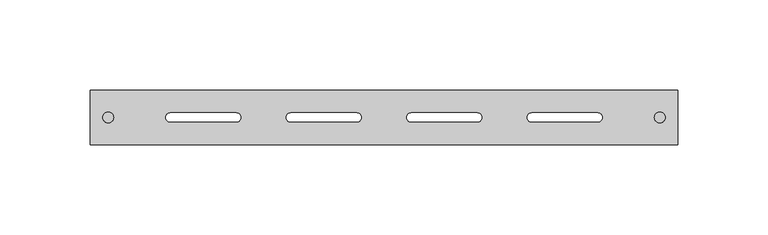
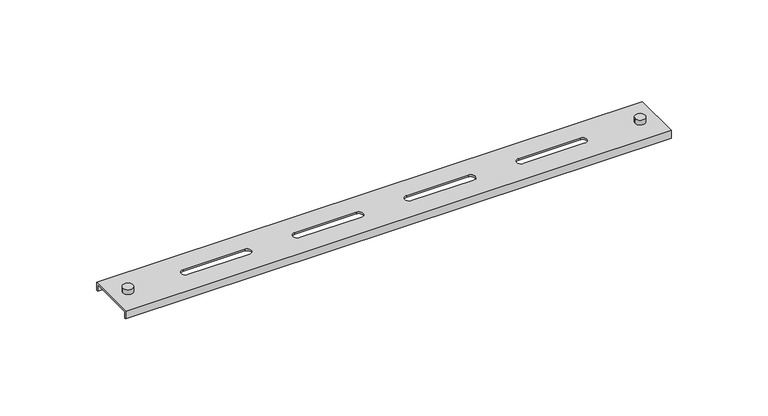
"""IFC4 building model written with IfcOpenShell, lengths in millimetres: cable carrier fitting geometry, CCT_Hyperline_FBTR_BAR_Подвес_для_оптического_лотка : Подвес для оптического лотка."""

from ifc_helpers import new_model, si_unit, point, frame, frame_2d, origin, place, context, project, spatial, polyline, circle_curve, trimmed, segment, composite_curve, outline, extrude, source, transform, mapped, element, save
from ifc_brep_helpers import plane_surface, revolved_surface, advanced_brep


def cable_carrier_fitting_5769e5f2(model_context):
    return source(origin(), model_context, "Body", "SolidModel", [
        extrude(outline(composite_curve([segment(trimmed(circle_curve(frame_2d((-152.6286976, 0.0)), 3.0), [point((-149.6286976, 0.0))], [point((-155.6286976, 0.0))], False, "CARTESIAN"), True, "CONTINUOUS"), segment(trimmed(circle_curve(frame_2d((-152.6286976, 0.0)), 3.0), [point((-155.6286976, 0.0))], [point((-149.6286976, 0.0))], False, "CARTESIAN"), True, "CONTINUOUS")], self_intersect=False)), frame((0.0, 0.0, 600.0), z_axis=(0.0, 0.0, 1.0), x_axis=(1.0, 0.0, 0.0)), (0.0, 0.0, 1.0), 3.0),
        extrude(outline(composite_curve([segment(trimmed(circle_curve(frame_2d((152.6286976, 0.0)), 3.0), [point((149.6286976, 0.0))], [point((155.6286976, 0.0))], False, "CARTESIAN"), True, "CONTINUOUS"), segment(trimmed(circle_curve(frame_2d((152.6286976, 0.0)), 3.0), [point((155.6286976, 0.0))], [point((149.6286976, 0.0))], False, "CARTESIAN"), True, "CONTINUOUS")], self_intersect=False)), frame((0.0, 0.0, 600.0), z_axis=(0.0, 0.0, 1.0), x_axis=(1.0, 0.0, 0.0)), (0.0, 0.0, 1.0), 3.0),
        advanced_brep(
        [(-162.5, -15.0, 600.0), (-162.5, 15.0, 600.0), (-162.5, 15.0, 595.0), (-162.5, 14.0, 595.0), (-162.5, 14.0, 599.0), (-162.5, -14.0, 599.0), (-162.5, -14.0, 595.0), (-162.5, -15.0, 595.0), (162.5, -15.0, 600.0), (162.5, 15.0, 600.0), (-51.6666667, 2.5, 600.0), (-15.0, 2.5, 600.0), (-15.0, -2.5, 600.0), (-51.6666667, -2.5, 600.0), (15.0, 2.5, 600.0), (51.6666667, 2.5, 600.0), (51.6666667, -2.5, 600.0), (15.0, -2.5, 600.0), (81.6666667, 2.5, 600.0), (118.3333333, 2.5, 600.0), (118.3333333, -2.5, 600.0), (81.6666667, -2.5, 600.0), (-118.3333333, 2.5, 600.0), (-81.6666667, 2.5, 600.0), (-81.6666667, -2.5, 600.0), (-118.3333333, -2.5, 600.0), (162.5, 14.0, 599.0), (162.5, -14.0, 599.0), (-15.0, 2.5, 599.0), (-51.6666667, 2.5, 599.0), (-51.6666667, -2.5, 599.0), (-15.0, -2.5, 599.0), (51.6666667, 2.5, 599.0), (15.0, 2.5, 599.0), (15.0, -2.5, 599.0), (51.6666667, -2.5, 599.0), (118.3333333, 2.5, 599.0), (81.6666667, 2.5, 599.0), (81.6666667, -2.5, 599.0), (118.3333333, -2.5, 599.0), (-81.6666667, 2.5, 599.0), (-118.3333333, 2.5, 599.0), (-118.3333333, -2.5, 599.0), (-81.6666667, -2.5, 599.0), (162.5, -14.0, 595.0), (162.5, -15.0, 595.0), (162.5, 14.0, 595.0), (162.5, 15.0, 595.0)],
        [
            (0, 1),
            (1, 2),
            (2, 3),
            (3, 4),
            (4, 5),
            (5, 6),
            (6, 7),
            (7, 0),
            (0, 8),
            (8, 9),
            (9, 1),
            (10, 11),
            (11, 12, circle_curve(frame((-15.0, 0.0, 600.0), z_axis=(0.0, 0.0, -1.0), x_axis=(1.0, 0.0, 0.0)), 2.5)),
            (12, 13),
            (13, 10, circle_curve(frame((-51.6666667, 0.0, 600.0), z_axis=(0.0, 0.0, -1.0), x_axis=(1.0, 0.0, 0.0)), 2.5)),
            (14, 15),
            (15, 16, circle_curve(frame((51.6666667, 0.0, 600.0), z_axis=(0.0, 0.0, -1.0), x_axis=(1.0, 0.0, 0.0)), 2.5)),
            (16, 17),
            (17, 14, circle_curve(frame((15.0, 0.0, 600.0), z_axis=(0.0, 0.0, -1.0), x_axis=(1.0, 0.0, 0.0)), 2.5)),
            (18, 19),
            (19, 20, circle_curve(frame((118.3333333, 0.0, 600.0), z_axis=(0.0, 0.0, -1.0), x_axis=(1.0, 0.0, 0.0)), 2.5)),
            (20, 21),
            (21, 18, circle_curve(frame((81.6666667, 0.0, 600.0), z_axis=(0.0, 0.0, -1.0), x_axis=(1.0, 0.0, 0.0)), 2.5)),
            (22, 23),
            (23, 24, circle_curve(frame((-81.6666667, 0.0, 600.0), z_axis=(0.0, 0.0, -1.0), x_axis=(1.0, 0.0, 0.0)), 2.5)),
            (24, 25),
            (25, 22, circle_curve(frame((-118.3333333, 0.0, 600.0), z_axis=(0.0, 0.0, -1.0), x_axis=(1.0, 0.0, 0.0)), 2.5)),
            (4, 26),
            (26, 27),
            (27, 5),
            (28, 29),
            (29, 30, circle_curve(frame((-51.6666667, 0.0, 599.0), z_axis=(0.0, 0.0, 1.0), x_axis=(1.0, 0.0, 0.0)), 2.5)),
            (30, 31),
            (31, 28, circle_curve(frame((-15.0, 0.0, 599.0), z_axis=(0.0, 0.0, 1.0), x_axis=(1.0, 0.0, 0.0)), 2.5)),
            (32, 33),
            (33, 34, circle_curve(frame((15.0, 0.0, 599.0), z_axis=(0.0, 0.0, 1.0), x_axis=(1.0, 0.0, 0.0)), 2.5)),
            (34, 35),
            (35, 32, circle_curve(frame((51.6666667, 0.0, 599.0), z_axis=(0.0, 0.0, 1.0), x_axis=(1.0, 0.0, 0.0)), 2.5)),
            (36, 37),
            (37, 38, circle_curve(frame((81.6666667, 0.0, 599.0), z_axis=(0.0, 0.0, 1.0), x_axis=(1.0, 0.0, 0.0)), 2.5)),
            (38, 39),
            (39, 36, circle_curve(frame((118.3333333, 0.0, 599.0), z_axis=(0.0, 0.0, 1.0), x_axis=(1.0, 0.0, 0.0)), 2.5)),
            (40, 41),
            (41, 42, circle_curve(frame((-118.3333333, 0.0, 599.0), z_axis=(0.0, 0.0, 1.0), x_axis=(1.0, 0.0, 0.0)), 2.5)),
            (42, 43),
            (43, 40, circle_curve(frame((-81.6666667, 0.0, 599.0), z_axis=(0.0, 0.0, 1.0), x_axis=(1.0, 0.0, 0.0)), 2.5)),
            (27, 44),
            (44, 6),
            (44, 45),
            (45, 7),
            (45, 8),
            (26, 46),
            (46, 47),
            (47, 9),
            (47, 2),
            (46, 3),
            (10, 29),
            (28, 11),
            (13, 30),
            (12, 31),
            (14, 33),
            (32, 15),
            (17, 34),
            (16, 35),
            (18, 37),
            (36, 19),
            (21, 38),
            (20, 39),
            (22, 41),
            (40, 23),
            (25, 42),
            (24, 43),
        ],
        [
            plane_surface(frame((-162.5, -60.0, 524.0), z_axis=(-1.0, 0.0, 0.0), x_axis=(0.0, 0.0, 1.0))),
            plane_surface(frame((-162.5, -15.0, 600.0), z_axis=(0.0, 0.0, 1.0), x_axis=(1.0, 0.0, 0.0))),
            plane_surface(frame((-162.5, 14.0, 599.0), z_axis=(0.0, 0.0, -1.0), x_axis=(1.0, 0.0, 0.0))),
            plane_surface(frame((-162.5, -14.0, 599.0), z_axis=(0.0, 1.0, 0.0), x_axis=(1.0, 0.0, 0.0))),
            plane_surface(frame((-162.5, -14.0, 595.0), z_axis=(0.0, 0.0, -1.0), x_axis=(1.0, 0.0, 0.0))),
            plane_surface(frame((-162.5, -15.0, 595.0), z_axis=(0.0, -1.0, 0.0), x_axis=(1.0, 0.0, 0.0))),
            plane_surface(frame((162.5, -60.0, 524.0), z_axis=(1.0, 0.0, 0.0), x_axis=(0.0, 0.0, 1.0))),
            plane_surface(frame((-162.5, 15.0, 600.0), z_axis=(0.0, 1.0, 0.0), x_axis=(1.0, 0.0, 0.0))),
            plane_surface(frame((-162.5, 15.0, 595.0), z_axis=(0.0, 0.0, -1.0), x_axis=(1.0, 0.0, 0.0))),
            plane_surface(frame((-162.5, 14.0, 595.0), z_axis=(0.0, -1.0, 0.0), x_axis=(1.0, 0.0, 0.0))),
            plane_surface(frame((-15.0, 2.5, 600.0), z_axis=(0.0, -1.0, 0.0), x_axis=(0.0, 0.0, -1.0))),
            revolved_surface(polyline([(-49.1666667, 0.0, 600.0), (-49.1666667, 0.0, 599.0)]), (-51.6666667, 0.0, 599.0), (0.0, 0.0, 1.0)),
            plane_surface(frame((-51.6666667, -2.5, 600.0), z_axis=(0.0, 1.0, 0.0), x_axis=(0.0, 0.0, -1.0))),
            revolved_surface(polyline([(-12.5, 0.0, 600.0), (-12.5, 0.0, 599.0)]), (-15.0, 0.0, 599.0), (0.0, 0.0, 1.0)),
            plane_surface(frame((51.6666667, 2.5, 600.0), z_axis=(0.0, -1.0, 0.0), x_axis=(0.0, 0.0, -1.0))),
            revolved_surface(polyline([(17.5, 0.0, 600.0), (17.5, 0.0, 599.0)]), (15.0, 0.0, 599.0), (0.0, 0.0, 1.0)),
            plane_surface(frame((15.0, -2.5, 600.0), z_axis=(0.0, 1.0, 0.0), x_axis=(0.0, 0.0, -1.0))),
            revolved_surface(polyline([(54.1666667, 0.0, 600.0), (54.1666667, 0.0, 599.0)]), (51.6666667, 0.0, 599.0), (0.0, 0.0, 1.0)),
            plane_surface(frame((118.3333333, 2.5, 600.0), z_axis=(0.0, -1.0, 0.0), x_axis=(0.0, 0.0, -1.0))),
            revolved_surface(polyline([(84.1666667, 0.0, 600.0), (84.1666667, 0.0, 599.0)]), (81.6666667, 0.0, 599.0), (0.0, 0.0, 1.0)),
            plane_surface(frame((81.6666667, -2.5, 600.0), z_axis=(0.0, 1.0, 0.0), x_axis=(0.0, 0.0, -1.0))),
            revolved_surface(polyline([(120.8333333, 0.0, 600.0), (120.8333333, 0.0, 599.0)]), (118.3333333, 0.0, 599.0), (0.0, 0.0, 1.0)),
            plane_surface(frame((-81.6666667, 2.5, 600.0), z_axis=(0.0, -1.0, 0.0), x_axis=(0.0, 0.0, -1.0))),
            revolved_surface(polyline([(-115.8333333, 0.0, 600.0), (-115.8333333, 0.0, 599.0)]), (-118.3333333, 0.0, 599.0), (0.0, 0.0, 1.0)),
            plane_surface(frame((-118.3333333, -2.5, 600.0), z_axis=(0.0, 1.0, 0.0), x_axis=(0.0, 0.0, -1.0))),
            revolved_surface(polyline([(-79.1666667, 0.0, 600.0), (-79.1666667, 0.0, 599.0)]), (-81.6666667, 0.0, 599.0), (0.0, 0.0, 1.0)),
        ],
        [
            (0, [[1, 2, 3, 4, 5, 6, 7, 8]]),
            (1, [[-1, 9, 10, 11], [12, 13, 14, 15], [16, 17, 18, 19], [20, 21, 22, 23], [24, 25, 26, 27]]),
            (2, [[-5, 28, 29, 30], [31, 32, 33, 34], [35, 36, 37, 38], [39, 40, 41, 42], [43, 44, 45, 46]]),
            (3, [[-6, -30, 47, 48]]),
            (4, [[-7, -48, 49, 50]]),
            (5, [[-8, -50, 51, -9]]),
            (6, [[-10, -51, -49, -47, -29, 52, 53, 54]]),
            (7, [[-2, -11, -54, 55]]),
            (8, [[-3, -55, -53, 56]]),
            (9, [[-4, -56, -52, -28]]),
            (10, [[57, -31, 58, -12]]),
            (11, [[-57, -15, 59, -32]]),
            (12, [[-59, -14, 60, -33]]),
            (13, [[-58, -34, -60, -13]]),
            (14, [[61, -35, 62, -16]]),
            (15, [[-61, -19, 63, -36]]),
            (16, [[-63, -18, 64, -37]]),
            (17, [[-62, -38, -64, -17]]),
            (18, [[65, -39, 66, -20]]),
            (19, [[-65, -23, 67, -40]]),
            (20, [[-67, -22, 68, -41]]),
            (21, [[-66, -42, -68, -21]]),
            (22, [[69, -43, 70, -24]]),
            (23, [[-69, -27, 71, -44]]),
            (24, [[-71, -26, 72, -45]]),
            (25, [[-70, -46, -72, -25]]),
        ],
    ),
    ])


if __name__ == "__main__":
    model = new_model("IFC4")
    model_context = context("Model", 3, world=origin())
    ifc_project = project(units=[si_unit("LENGTHUNIT", "METRE", prefix="MILLI")], contexts=[model_context])
    site = spatial("IfcSite", under=ifc_project)
    building = spatial("IfcBuilding", under=site)
    placement = place(None, origin())
    cable_carrier_fitting_shape = cable_carrier_fitting_5769e5f2(model_context)
    element("IfcCableCarrierFitting", 1, ObjectType="CCT_Hyperline_FBTR_BAR_Подвес_для_оптического_лотка : Подвес для оптического лотка", at=placement, inside=building, context=model_context, shape_type="MappedRepresentation", body=[
        mapped(cable_carrier_fitting_shape, transform((0.0, 0.0, 0.0), x_axis=(1.0, 0.0, 0.0), y_axis=(0.0, 1.0, 0.0), z_axis=(0.0, 0.0, 1.0))),
    ])
    save(model, "model.ifc")
